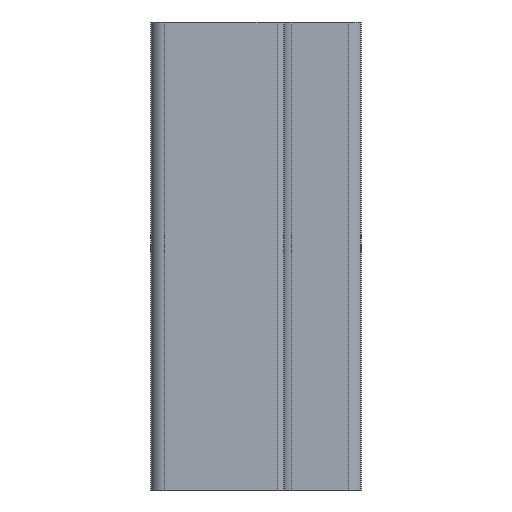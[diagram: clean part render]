
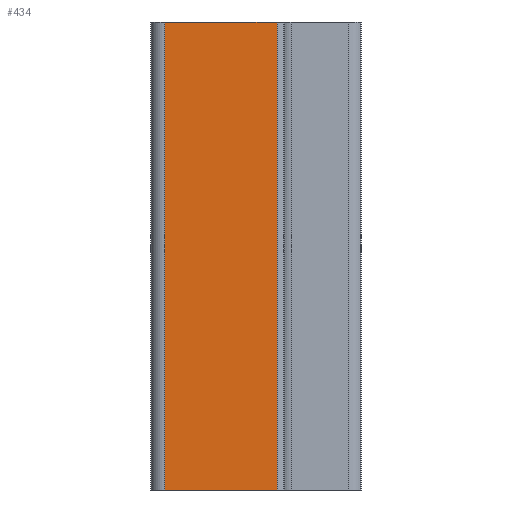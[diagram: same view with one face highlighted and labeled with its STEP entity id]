
A CAD part, front view. The second image highlights one B-rep face of the part: STEP entity #434.
In plain terms, the highlighted planar face has unit normal (0, -1, 0).
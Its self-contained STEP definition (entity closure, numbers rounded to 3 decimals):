
#24 = ORIENTED_EDGE ( 'NONE', *, *, #1870, .F. ) ;
#66 = VERTEX_POINT ( 'NONE', #1970 ) ;
#102 = ORIENTED_EDGE ( 'NONE', *, *, #455, .T. ) ;
#145 = VECTOR ( 'NONE', #1999, 1000. ) ;
#168 = EDGE_LOOP ( 'NONE', ( #1381, #24, #102, #2074 ) ) ;
#203 = EDGE_CURVE ( 'NONE', #653, #66, #2223, .T. ) ;
#363 = DIRECTION ( 'NONE',  ( -1., 0., 0. ) ) ;
#365 = CARTESIAN_POINT ( 'NONE',  ( 9.5, -17.5, 100. ) ) ;
#418 = CARTESIAN_POINT ( 'NONE',  ( -9.5, -17.5, 100. ) ) ;
#433 = DIRECTION ( 'NONE',  ( -1., 0., 0. ) ) ;
#434 = ADVANCED_FACE ( 'NONE', ( #1288 ), #1780, .F. ) ;
#455 = EDGE_CURVE ( 'NONE', #2016, #1322, #1473, .T. ) ;
#595 = DIRECTION ( 'NONE',  ( 0., 1., 0. ) ) ;
#619 = LINE ( 'NONE', #2185, #145 ) ;
#653 = VERTEX_POINT ( 'NONE', #1074 ) ;
#782 = CARTESIAN_POINT ( 'NONE',  ( -9.5, -17.5, 100. ) ) ;
#888 = DIRECTION ( 'NONE',  ( 0., 0., -1. ) ) ;
#1014 = AXIS2_PLACEMENT_3D ( 'NONE', #418, #595, #1949 ) ;
#1074 = CARTESIAN_POINT ( 'NONE',  ( 9.5, -17.5, 0. ) ) ;
#1227 = LINE ( 'NONE', #365, #1788 ) ;
#1287 = CARTESIAN_POINT ( 'NONE',  ( 9.5, -17.5, 100. ) ) ;
#1288 = FACE_OUTER_BOUND ( 'NONE', #168, .T. ) ;
#1322 = VERTEX_POINT ( 'NONE', #1979 ) ;
#1381 = ORIENTED_EDGE ( 'NONE', *, *, #203, .F. ) ;
#1421 = VECTOR ( 'NONE', #363, 1000. ) ;
#1473 = LINE ( 'NONE', #782, #1712 ) ;
#1712 = VECTOR ( 'NONE', #433, 1000. ) ;
#1780 = PLANE ( 'NONE',  #1014 ) ;
#1788 = VECTOR ( 'NONE', #888, 1000. ) ;
#1870 = EDGE_CURVE ( 'NONE', #2016, #653, #1227, .T. ) ;
#1949 = DIRECTION ( 'NONE',  ( 1., 0., 0. ) ) ;
#1970 = CARTESIAN_POINT ( 'NONE',  ( -14.5, -17.5, 0. ) ) ;
#1979 = CARTESIAN_POINT ( 'NONE',  ( -14.5, -17.5, 100. ) ) ;
#1999 = DIRECTION ( 'NONE',  ( 0., 0., -1. ) ) ;
#2016 = VERTEX_POINT ( 'NONE', #1287 ) ;
#2074 = ORIENTED_EDGE ( 'NONE', *, *, #2141, .T. ) ;
#2075 = CARTESIAN_POINT ( 'NONE',  ( -9.5, -17.5, 0. ) ) ;
#2141 = EDGE_CURVE ( 'NONE', #1322, #66, #619, .T. ) ;
#2185 = CARTESIAN_POINT ( 'NONE',  ( -14.5, -17.5, 100. ) ) ;
#2223 = LINE ( 'NONE', #2075, #1421 ) ;
